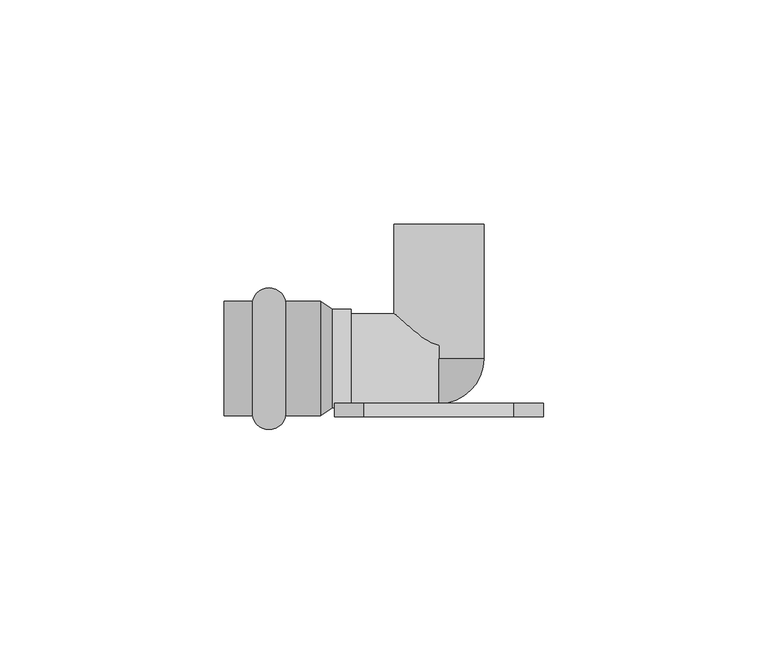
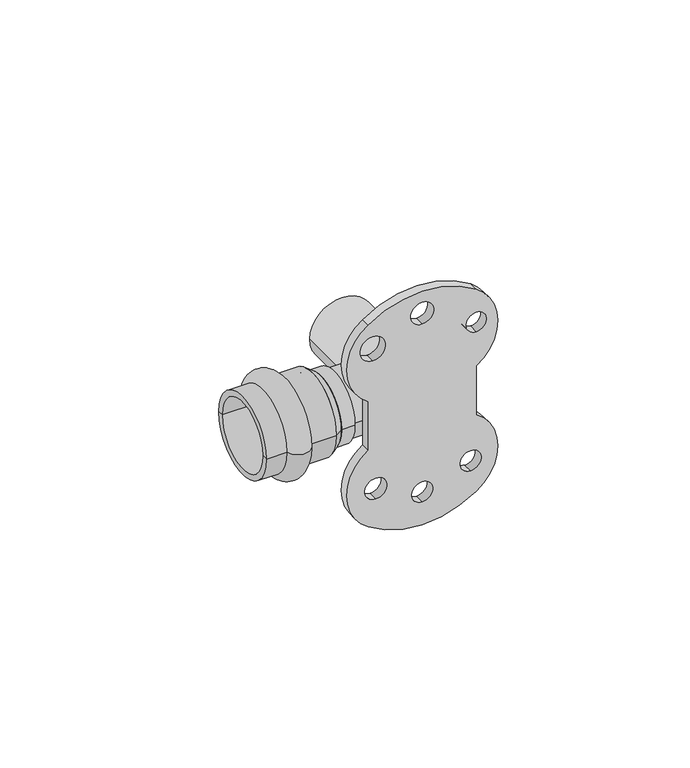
"""IFC4 building model written with IfcOpenShell, lengths in millimetres: pipe fitting geometry, VALTEC_VTi.954.I_Водорозетка : VTi.954.I."""

from ifc_helpers import new_model, si_unit, point, frame, frame_2d, origin, origin_2d, place, context, project, spatial, polyline, circle_curve, ellipse_curve, trimmed, segment, composite_curve, outline, extrude, source, transform, mapped, element, save
from ifc_brep_helpers import plane_surface, cylinder_surface, revolved_surface, advanced_brep


def pipe_fitting_ddbf7e31(model_context):
    return source(origin(), model_context, "Body", "SolidModel", [
        advanced_brep(
        [(-41.6242346, -12.8, 0.0), (-41.6242346, 12.8, 0.0), (-34.2757654, 12.8, 0.0), (-34.2757654, -12.8, 0.0), (-48.0, -12.8, 0.0), (-48.0, 12.8, 0.0), (-48.0, -11.0, 0.0), (-48.0, 11.0, 0.0), (-26.4, -11.0, 0.0), (-26.4, 11.0, 0.0), (-26.4, -12.8, 0.0), (-26.4, 12.8, 0.0)],
        [
            (0, 1, circle_curve(frame((-41.6242346, 0.0, 0.0), z_axis=(1.0, 0.0, 0.0), x_axis=(0.0, 1.0, 0.0)), 12.8)),
            (1, 2, circle_curve(frame((-37.95, 12.05, 0.0), z_axis=(0.0, 0.0, -1.0), x_axis=(1.0, 0.0, 0.0)), 3.75)),
            (2, 3, circle_curve(frame((-34.2757654, 0.0, 0.0), z_axis=(-1.0, 0.0, 0.0), x_axis=(0.0, 1.0, 0.0)), 12.8)),
            (3, 0, circle_curve(frame((-37.95, -12.05, 0.0), z_axis=(0.0, 0.0, -1.0), x_axis=(1.0, 0.0, 0.0)), 3.75)),
            (1, 0, circle_curve(frame((-41.6242346, 0.0, 0.0), z_axis=(1.0, 0.0, 0.0), x_axis=(0.0, 1.0, 0.0)), 12.8)),
            (3, 2, circle_curve(frame((-34.2757654, 0.0, 0.0), z_axis=(-1.0, 0.0, 0.0), x_axis=(0.0, 1.0, 0.0)), 12.8)),
            (4, 5, circle_curve(frame((-48.0, 0.0, 0.0), z_axis=(1.0, 0.0, 0.0), x_axis=(0.0, 1.0, 0.0)), 12.8)),
            (5, 1),
            (0, 4),
            (5, 4, circle_curve(frame((-48.0, 0.0, 0.0), z_axis=(1.0, 0.0, 0.0), x_axis=(0.0, 1.0, 0.0)), 12.8)),
            (6, 7, circle_curve(frame((-48.0, 0.0, 0.0), z_axis=(1.0, 0.0, 0.0), x_axis=(0.0, 1.0, 0.0)), 11.0)),
            (7, 5),
            (4, 6),
            (7, 6, circle_curve(frame((-48.0, 0.0, 0.0), z_axis=(1.0, 0.0, 0.0), x_axis=(0.0, 1.0, 0.0)), 11.0)),
            (8, 9, circle_curve(frame((-26.4, 0.0, 0.0), z_axis=(1.0, 0.0, 0.0), x_axis=(0.0, 1.0, 0.0)), 11.0)),
            (9, 7),
            (6, 8),
            (9, 8, circle_curve(frame((-26.4, 0.0, 0.0), z_axis=(1.0, 0.0, 0.0), x_axis=(0.0, 1.0, 0.0)), 11.0)),
            (10, 11, circle_curve(frame((-26.4, 0.0, 0.0), z_axis=(1.0, 0.0, 0.0), x_axis=(0.0, 1.0, 0.0)), 12.8)),
            (11, 9),
            (8, 10),
            (11, 10, circle_curve(frame((-26.4, 0.0, 0.0), z_axis=(1.0, 0.0, 0.0), x_axis=(0.0, 1.0, 0.0)), 12.8)),
            (2, 11),
            (10, 3),
        ],
        [
            revolved_surface(trimmed(ellipse_curve(frame((-37.95, 12.05, 0.0), z_axis=(0.0, 0.0, 1.0), x_axis=(1.0, 0.0, 0.0)), 3.75, 3.75), [point((-34.2757654, 12.8, 0.0))], [point((-41.6242346, 12.8, 0.0))], True, "CARTESIAN"), (-51.5364426, 0.0, 0.0), (-1.0, 0.0, 0.0)),
            cylinder_surface(frame((-51.5364426, 0.0, 0.0), z_axis=(-1.0, 0.0, 0.0), x_axis=(0.0, 1.0, 0.0)), 12.8),
            plane_surface(frame((-48.0, 0.0, 0.0), z_axis=(-1.0, 0.0, 0.0), x_axis=(0.0, 1.0, 0.0))),
            revolved_surface(polyline([(-48.0, 11.0, 0.0), (-26.4, 11.0, 0.0)]), (-51.5364426, 0.0, 0.0), (-1.0, 0.0, 0.0)),
            plane_surface(frame((-26.4, 0.0, 0.0), z_axis=(1.0, 0.0, 0.0), x_axis=(0.0, 1.0, 0.0))),
        ],
        [
            (0, [[1, 2, 3, 4]]),
            (0, [[5, -4, 6, -2]]),
            (1, [[7, 8, -1, 9]]),
            (1, [[10, -9, -5, -8]]),
            (2, [[11, 12, -7, 13]]),
            (2, [[14, -13, -10, -12]]),
            (3, [[15, 16, -11, 17]]),
            (3, [[18, -17, -14, -16]]),
            (4, [[19, 20, -15, 21]]),
            (4, [[22, -21, -18, -20]]),
            (1, [[-3, 23, -19, 24]]),
            (1, [[-6, -24, -22, -23]]),
        ],
    ),
        extrude(outline(composite_curve([segment(polyline([(-7.9880122, 16.7174213), (7.9880122, 16.7174213)]), True, "CONTINUOUS"), segment(trimmed(circle_curve(frame_2d((20.4880122, 8.2246929)), 15.1121288), [point((7.9880122, 16.7174213))], [point((32.9880122, 16.7174213))], False, "CARTESIAN"), True, "CONTINUOUS"), segment(trimmed(circle_curve(frame_2d((8.3825197, 0.0)), 29.7473098), [point((32.9880122, 16.7174213))], [point((32.9880122, -16.7174213))], False, "CARTESIAN"), True, "CONTINUOUS"), segment(trimmed(circle_curve(frame_2d((20.4880122, -8.2246929)), 15.1121288), [point((32.9880122, -16.7174213))], [point((7.9880122, -16.7174213))], False, "CARTESIAN"), True, "CONTINUOUS"), segment(polyline([(7.9880122, -16.7174213), (-7.9880122, -16.7174213)]), True, "CONTINUOUS"), segment(trimmed(circle_curve(frame_2d((-20.4880122, -8.2246929)), 15.1121288), [point((-7.9880122, -16.7174213))], [point((-32.9880122, -16.7174213))], False, "CARTESIAN"), True, "CONTINUOUS"), segment(trimmed(circle_curve(frame_2d((-8.3825197, 0.0)), 29.7473098), [point((-32.9880122, -16.7174213))], [point((-32.9880122, 16.7174213))], False, "CARTESIAN"), True, "CONTINUOUS"), segment(trimmed(circle_curve(frame_2d((-20.4880122, 8.2246929)), 15.1121288), [point((-32.9880122, 16.7174213))], [point((-7.9880122, 16.7174213))], False, "CARTESIAN"), True, "CONTINUOUS")], self_intersect=False), holes=[composite_curve([segment(trimmed(circle_curve(frame_2d((-22.4078456, 14.9572115)), 3.2586084), [point((-19.1492372, 14.9572115))], [point((-25.6664541, 14.9572115))], True, "CARTESIAN"), True, "CONTINUOUS"), segment(trimmed(circle_curve(frame_2d((-22.4078456, 14.9572115)), 3.2586084), [point((-25.6664541, 14.9572115))], [point((-19.1492372, 14.9572115))], True, "CARTESIAN"), True, "CONTINUOUS")], self_intersect=False), composite_curve([segment(trimmed(circle_curve(frame_2d((-27.3898654, 0.0)), 3.2507226), [point((-24.1391428, 0.0))], [point((-30.640588, 0.0))], True, "CARTESIAN"), True, "CONTINUOUS"), segment(trimmed(circle_curve(frame_2d((-27.3898654, 0.0)), 3.2507226), [point((-30.640588, 0.0))], [point((-24.1391428, 0.0))], True, "CARTESIAN"), True, "CONTINUOUS")], self_intersect=False), composite_curve([segment(trimmed(circle_curve(frame_2d((-21.2868912, -14.3121545)), 3.401561), [point((-17.8853302, -14.3121545))], [point((-24.6884522, -14.3121545))], True, "CARTESIAN"), True, "CONTINUOUS"), segment(trimmed(circle_curve(frame_2d((-21.2868912, -14.3121545)), 3.401561), [point((-24.6884522, -14.3121545))], [point((-17.8853302, -14.3121545))], True, "CARTESIAN"), True, "CONTINUOUS")], self_intersect=False), composite_curve([segment(trimmed(circle_curve(frame_2d((22.3057816, 16.7174213)), 3.1302653), [point((25.4360468, 16.7174213))], [point((19.1755163, 16.7174213))], True, "CARTESIAN"), True, "CONTINUOUS"), segment(trimmed(circle_curve(frame_2d((22.3057816, 16.7174213)), 3.1302653), [point((19.1755163, 16.7174213))], [point((25.4360468, 16.7174213))], True, "CARTESIAN"), True, "CONTINUOUS")], self_intersect=False), composite_curve([segment(trimmed(circle_curve(frame_2d((31.0243161, 0.0)), 3.5243161), [point((34.5486322, 0.0))], [point((27.5, 0.0))], True, "CARTESIAN"), True, "CONTINUOUS"), segment(trimmed(circle_curve(frame_2d((31.0243161, 0.0)), 3.5243161), [point((27.5, 0.0))], [point((34.5486322, 0.0))], True, "CARTESIAN"), True, "CONTINUOUS")], self_intersect=False), composite_curve([segment(trimmed(circle_curve(frame_2d((24.75, -15.3085584)), 3.9300859), [point((28.6800859, -15.3085584))], [point((20.8199141, -15.3085584))], True, "CARTESIAN"), True, "CONTINUOUS"), segment(trimmed(circle_curve(frame_2d((24.75, -15.3085584)), 3.9300859), [point((20.8199141, -15.3085584))], [point((28.6800859, -15.3085584))], True, "CARTESIAN"), True, "CONTINUOUS")], self_intersect=False)]), frame((0.0, -13.0, 0.0), z_axis=(0.0, 1.0, 0.0), x_axis=(0.0, 0.0, 1.0)), (0.0, 0.0, 1.0), 3.0),
        advanced_brep(
        [(0.0, 0.0, -10.0), (0.0, 0.0, 10.0)],
        [
            (0, 1, circle_curve(frame((0.0, 0.0, 0.0), z_axis=(-1.0, 0.0, 0.0), x_axis=(0.0, -1.0, 0.0)), 10.0)),
            (1, 0),
            (1, 0, circle_curve(frame((0.0, 0.0, 0.0), z_axis=(0.0, 1.0, 0.0), x_axis=(1.0, 0.0, 0.0)), 10.0)),
        ],
        [
            plane_surface(frame((0.0, 0.0, 1.732782), z_axis=(-1.0, 0.0, 0.0), x_axis=(0.0, -1.0, 0.0))),
            plane_surface(frame((0.0, 0.0, 1.732782), z_axis=(0.0, 1.0, 0.0), x_axis=(1.0, 0.0, 0.0))),
            revolved_surface(trimmed(ellipse_curve(frame((0.0, 0.0, 0.0), z_axis=(-1.0, 0.0, 0.0), x_axis=(0.0, -1.0, 0.0)), 10.0, 10.0), [point((0.0, 0.0, -10.0))], [point((0.0, 0.0, 10.0))], True, "CARTESIAN"), (0.0, 0.0, 1.732782), (0.0, 0.0, 1.0)),
        ],
        [
            (0, [[1, 2]]),
            (1, [[3, -2]]),
            (2, [[-1, -3]]),
        ],
    ),
        extrude(outline(composite_curve([segment(trimmed(circle_curve(origin_2d(), 10.0), [point((-10.0, 0.0))], [point((10.0, 0.0))], False, "CARTESIAN"), True, "CONTINUOUS"), segment(trimmed(circle_curve(origin_2d(), 10.0), [point((10.0, 0.0))], [point((-10.0, 0.0))], False, "CARTESIAN"), True, "CONTINUOUS")], self_intersect=False)), frame((-19.6390217, 0.0, 0.0), z_axis=(1.0, 0.0, 0.0), x_axis=(0.0, 1.0, 0.0)), (0.0, 0.0, 1.0), 19.6390217),
        extrude(outline(composite_curve([segment(trimmed(circle_curve(origin_2d(), 10.0), [point((0.0, -10.0))], [point((0.0, 10.0))], False, "CARTESIAN"), True, "CONTINUOUS"), segment(trimmed(circle_curve(origin_2d(), 10.0), [point((0.0, 10.0))], [point((0.0, -10.0))], False, "CARTESIAN"), True, "CONTINUOUS")], self_intersect=False), holes=[composite_curve([segment(trimmed(circle_curve(origin_2d(), 7.5), [point((0.0, -7.5))], [point((0.0, 7.5))], True, "CARTESIAN"), True, "CONTINUOUS"), segment(trimmed(circle_curve(origin_2d(), 7.5), [point((0.0, 7.5))], [point((0.0, -7.5))], True, "CARTESIAN"), True, "CONTINUOUS")], self_intersect=False)]), frame((0.0, 0.0, 0.0), z_axis=(0.0, 1.0, 0.0), x_axis=(0.0, 0.0, 1.0)), (0.0, 0.0, 1.0), 30.0),
        extrude(outline(composite_curve([segment(trimmed(circle_curve(origin_2d(), 11.0), [point((-11.0, 0.0))], [point((11.0, 0.0))], False, "CARTESIAN"), True, "CONTINUOUS"), segment(trimmed(circle_curve(origin_2d(), 11.0), [point((11.0, 0.0))], [point((-11.0, 0.0))], False, "CARTESIAN"), True, "CONTINUOUS")], self_intersect=False)), frame((-23.76, 0.0, 0.0), z_axis=(1.0, 0.0, 0.0), x_axis=(0.0, 1.0, 0.0)), (0.0, 0.0, 1.0), 4.1209783),
        advanced_brep(
        [(-26.4, -12.8, 0.0), (-26.4, 12.8, 0.0), (-23.76, -11.0, 0.0), (-23.76, 11.0, 0.0)],
        [
            (0, 1, circle_curve(frame((-26.4, 0.0, 0.0), z_axis=(-1.0, 0.0, 0.0), x_axis=(0.0, -1.0, 0.0)), 12.8)),
            (1, 0, circle_curve(frame((-26.4, 0.0, 0.0), z_axis=(-1.0, 0.0, 0.0), x_axis=(0.0, 1.0, 0.0)), 12.8)),
            (2, 3, circle_curve(frame((-23.76, 0.0, 0.0), z_axis=(1.0, 0.0, 0.0), x_axis=(0.0, 1.0, 0.0)), 11.0)),
            (3, 2, circle_curve(frame((-23.76, 0.0, 0.0), z_axis=(1.0, 0.0, 0.0), x_axis=(0.0, -1.0, 0.0)), 11.0)),
            (2, 0),
            (1, 3),
        ],
        [
            plane_surface(frame((-26.4, 0.0, 0.0), z_axis=(-1.0, 0.0, 0.0), x_axis=(0.0, 0.0, -1.0))),
            plane_surface(frame((-23.76, 0.0, 0.0), z_axis=(1.0, 0.0, 0.0), x_axis=(0.0, 0.0, -1.0))),
            revolved_surface(polyline([(-23.76, -10.999999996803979, 0.0), (-26.4, -12.8, 0.0)]), (-7.6266667, 0.0, 0.0), (-1.0, 0.0, 0.0)),
            revolved_surface(polyline([(-23.76, 10.999999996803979, 0.0), (-26.4, 12.8, 0.0)]), (-7.6266667, 0.0, 0.0), (-1.0, 0.0, 0.0)),
        ],
        [
            (0, [[1, 2]]),
            (1, [[3, 4]]),
            (2, [[-3, 5, -2, 6]]),
            (3, [[-4, -6, -1, -5]]),
        ],
    ),
    ])


if __name__ == "__main__":
    model = new_model("IFC4")
    model_context = context("Model", 3, world=origin())
    ifc_project = project(units=[si_unit("LENGTHUNIT", "METRE", prefix="MILLI")], contexts=[model_context])
    site = spatial("IfcSite", under=ifc_project)
    building = spatial("IfcBuilding", under=site)
    placement = place(None, origin())
    pipe_fitting_shape = pipe_fitting_ddbf7e31(model_context)
    element("IfcPipeFitting", 1, ObjectType="VALTEC_VTi.954.I_Водорозетка : VTi.954.I", at=placement, inside=building, context=model_context, shape_type="MappedRepresentation", body=[
        mapped(pipe_fitting_shape, transform((0.0, 0.0, 0.0), x_axis=(1.0, 0.0, 0.0), y_axis=(0.0, 1.0, 0.0), z_axis=(0.0, 0.0, 1.0))),
    ])
    save(model, "model.ifc")
